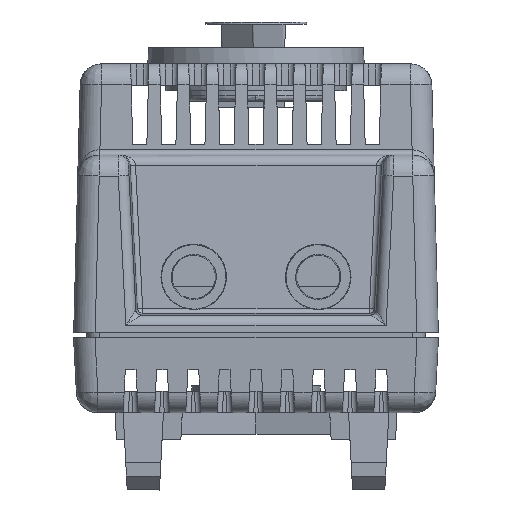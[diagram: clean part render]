
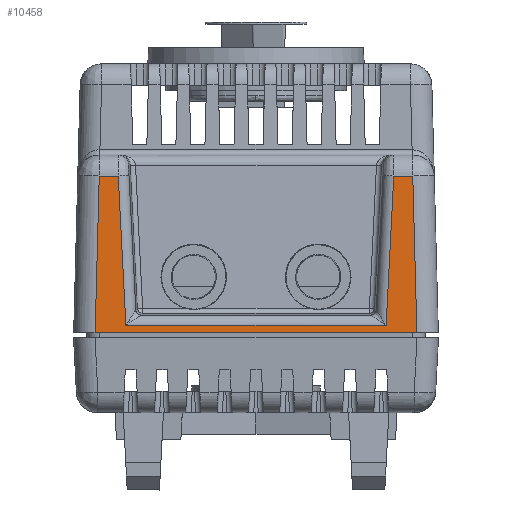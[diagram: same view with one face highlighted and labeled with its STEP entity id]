
A CAD part, front view. The second image highlights one B-rep face of the part: STEP entity #10458.
In plain terms, the highlighted planar face has unit normal (0, 1, -0.026).
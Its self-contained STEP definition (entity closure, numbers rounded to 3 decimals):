
#10458=ADVANCED_FACE('',(#18058),#18060,.T.);
#18058=FACE_BOUND('',#18059,.T.);
#18059=EDGE_LOOP('',(#24464,#24465,#24466,#24467,#24468,#24469,#24470,#24471));
#18060=PLANE('',#18061);
#18061=AXIS2_PLACEMENT_3D('',#18062,#18063,#18064);
#18062=CARTESIAN_POINT('',(80.051,-72.233,-1.455));
#18063=DIRECTION('',(0.,1.,-0.026));
#18064=DIRECTION('',(1.,0.,0.));
#24464=ORIENTED_EDGE('',*,*,#30311,.F.);
#24465=ORIENTED_EDGE('',*,*,#30274,.T.);
#24466=ORIENTED_EDGE('',*,*,#30256,.T.);
#24467=ORIENTED_EDGE('',*,*,#30312,.F.);
#24468=ORIENTED_EDGE('',*,*,#30313,.F.);
#24469=ORIENTED_EDGE('',*,*,#30314,.F.);
#24470=ORIENTED_EDGE('',*,*,#30315,.F.);
#24471=ORIENTED_EDGE('',*,*,#30316,.F.);
#30256=EDGE_CURVE('',#52246,#52244,#52247,.T.);
#30274=EDGE_CURVE('',#52280,#52246,#52281,.T.);
#30311=EDGE_CURVE('',#52280,#52349,#52350,.T.);
#30312=EDGE_CURVE('',#52351,#52244,#52352,.T.);
#30313=EDGE_CURVE('',#52353,#52351,#52354,.T.);
#30314=EDGE_CURVE('',#51194,#52353,#52355,.T.);
#30315=EDGE_CURVE('',#52356,#51194,#52357,.T.);
#30316=EDGE_CURVE('',#52349,#52356,#52358,.T.);
#51194=VERTEX_POINT('',#53645);
#52244=VERTEX_POINT('',#57549);
#52246=VERTEX_POINT('',#57554);
#52247=LINE('',#57555,#57556);
#52280=VERTEX_POINT('',#57631);
#52281=LINE('',#57632,#57633);
#52349=VERTEX_POINT('',#59485);
#52350=LINE('',#59486,#59487);
#52351=VERTEX_POINT('',#59489);
#52352=LINE('',#59490,#59491);
#52353=VERTEX_POINT('',#59493);
#52354=LINE('',#59494,#59495);
#52355=LINE('',#59497,#59498);
#52356=VERTEX_POINT('',#59500);
#52357=LINE('',#59501,#59502);
#52358=LINE('',#59504,#59505);
#53645=CARTESIAN_POINT('',(49.943,-72.178,0.628));
#57549=CARTESIAN_POINT('',(47.078,-72.195,0.));
#57554=CARTESIAN_POINT('',(77.053,-72.195,0.));
#57555=CARTESIAN_POINT('',(77.053,-72.195,0.));
#57556=VECTOR('',#57557,1.);
#57557=DIRECTION('',(-1.,0.,0.));
#57631=CARTESIAN_POINT('',(76.672,-71.814,14.552));
#57632=CARTESIAN_POINT('',(76.672,-71.814,14.552));
#57633=VECTOR('',#57634,1.);
#57634=DIRECTION('',(0.026,-0.026,-0.999));
#59485=CARTESIAN_POINT('',(74.899,-71.814,14.552));
#59486=CARTESIAN_POINT('',(76.672,-71.814,14.552));
#59487=VECTOR('',#59488,1.);
#59488=DIRECTION('',(-1.,0.,0.));
#59489=CARTESIAN_POINT('',(47.459,-71.814,14.552));
#59490=CARTESIAN_POINT('',(47.459,-71.814,14.552));
#59491=VECTOR('',#59492,1.);
#59492=DIRECTION('',(-0.026,-0.026,-0.999));
#59493=CARTESIAN_POINT('',(49.232,-71.814,14.552));
#59494=CARTESIAN_POINT('',(49.232,-71.814,14.552));
#59495=VECTOR('',#59496,1.);
#59496=DIRECTION('',(-1.,0.,0.));
#59497=CARTESIAN_POINT('',(49.943,-72.178,0.628));
#59498=VECTOR('',#59499,1.);
#59499=DIRECTION('',(-0.051,0.026,0.998));
#59500=CARTESIAN_POINT('',(74.188,-72.178,0.628));
#59501=CARTESIAN_POINT('',(74.188,-72.178,0.628));
#59502=VECTOR('',#59503,1.);
#59503=DIRECTION('',(-1.,0.,0.));
#59504=CARTESIAN_POINT('',(74.899,-71.814,14.552));
#59505=VECTOR('',#59506,1.);
#59506=DIRECTION('',(-0.051,-0.026,-0.998));
